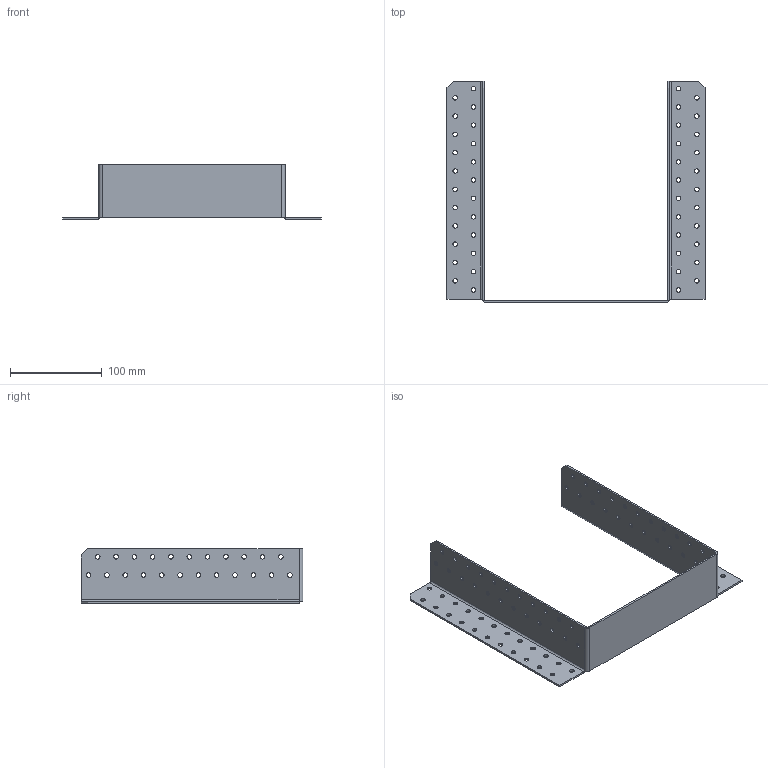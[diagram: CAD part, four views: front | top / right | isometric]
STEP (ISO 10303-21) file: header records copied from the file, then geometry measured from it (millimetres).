
FILE_DESCRIPTION (( 'STEP AP203' ), '1' );
FILE_NAME ('405252.STEP', '2021-04-17T18:02:05', ( '' ), ( '' ), 'SwSTEP 2.0', 'SolidWorks 2013', '' );
FILE_SCHEMA (( 'CONFIG_CONTROL_DESIGN' ));
Length unit declared in the file: millimetre
Products named in the file (1): 405252
Bounding box: 282 x 242 x 60 mm (x, y, z)
Volume: 113042.6 mm3; surface area: 119176.9 mm2
Topology: 1 solids, 1 shells, 228 faces, 648 edges, 422 vertices
Faces by surface type: cylinder 192, plane 36
Entity records: 8043 total; most frequent: DIRECTION 1492, CARTESIAN_POINT 1299, ORIENTED_EDGE 1296, EDGE_CURVE 648, AXIS2_PLACEMENT_3D 615, VERTEX_POINT 422, EDGE_LOOP 412, CIRCLE 386
